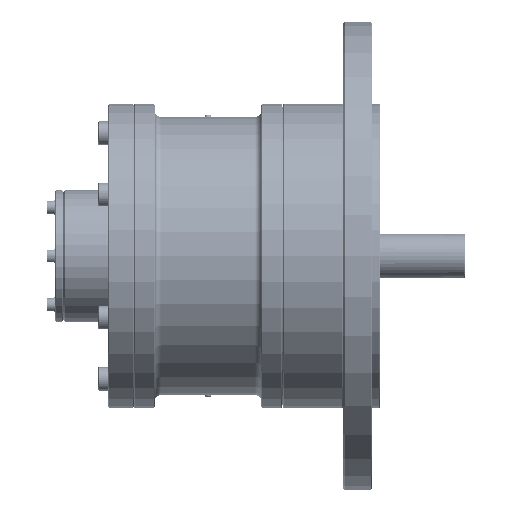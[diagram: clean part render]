
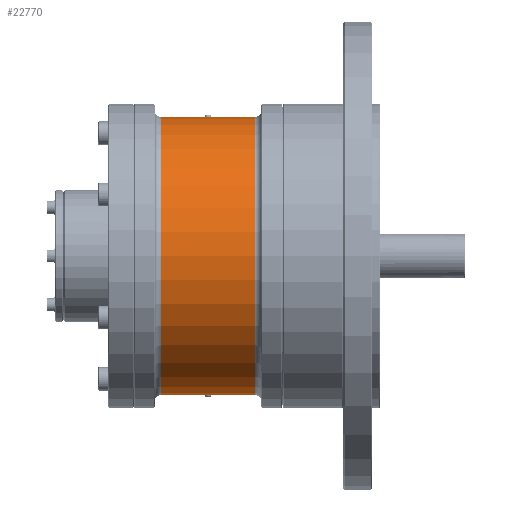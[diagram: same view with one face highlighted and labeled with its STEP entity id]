
A CAD part, front view. The second image highlights one B-rep face of the part: STEP entity #22770.
In plain terms, the highlighted cylindrical face has radius 59.5 mm (diameter 119 mm), a partial arc.
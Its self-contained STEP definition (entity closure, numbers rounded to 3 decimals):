
#1336 = AXIS2_PLACEMENT_3D ( 'NONE', #71107, #197490, #29830 ) ;
#10980 = LINE ( 'NONE', #163457, #52702 ) ;
#14158 = CARTESIAN_POINT ( 'NONE',  ( 17.5, 0., 59.5 ) ) ;
#18567 = CIRCLE ( 'NONE', #27989, 59.5 ) ;
#19676 = CARTESIAN_POINT ( 'NONE',  ( 17.5, 0., -59.5 ) ) ;
#21300 = FACE_OUTER_BOUND ( 'NONE', #60147, .T. ) ;
#22770 = ADVANCED_FACE ( 'NONE', ( #21300 ), #136905, .T. ) ;
#23606 = CIRCLE ( 'NONE', #1336, 59.5 ) ;
#27989 = AXIS2_PLACEMENT_3D ( 'NONE', #263414, #200480, #35467 ) ;
#29830 = DIRECTION ( 'NONE',  ( 0., 0., -1. ) ) ;
#32640 = ORIENTED_EDGE ( 'NONE', *, *, #113780, .F. ) ;
#35467 = DIRECTION ( 'NONE',  ( 0., 0., -1. ) ) ;
#45214 = VECTOR ( 'NONE', #181813, 1000. ) ;
#45800 = CARTESIAN_POINT ( 'NONE',  ( -20.25, 0., -59.5 ) ) ;
#46756 = VECTOR ( 'NONE', #48011, 1000. ) ;
#48011 = DIRECTION ( 'NONE',  ( 1., 0., 0. ) ) ;
#49451 = EDGE_CURVE ( 'NONE', #223347, #235997, #254153, .T. ) ;
#52702 = VECTOR ( 'NONE', #102545, 1000. ) ;
#53302 = EDGE_CURVE ( 'NONE', #235676, #194499, #23606, .T. ) ;
#55773 = CARTESIAN_POINT ( 'NONE',  ( -15., 0., 59.5 ) ) ;
#60147 = EDGE_LOOP ( 'NONE', ( #161233, #80608, #83010, #158616, #129545, #91675, #32640, #190693 ) ) ;
#66744 = EDGE_CURVE ( 'NONE', #248923, #184121, #106755, .T. ) ;
#68833 = CARTESIAN_POINT ( 'NONE',  ( -17.5, 0., 59.5 ) ) ;
#70958 = EDGE_CURVE ( 'NONE', #194499, #239706, #236118, .T. ) ;
#71107 = CARTESIAN_POINT ( 'NONE',  ( -20.25, 0., 0. ) ) ;
#80608 = ORIENTED_EDGE ( 'NONE', *, *, #53302, .T. ) ;
#83010 = ORIENTED_EDGE ( 'NONE', *, *, #70958, .T. ) ;
#85201 = VECTOR ( 'NONE', #202066, 1000. ) ;
#87681 = EDGE_CURVE ( 'NONE', #235997, #249183, #18567, .T. ) ;
#91622 = AXIS2_PLACEMENT_3D ( 'NONE', #131130, #111471, #150744 ) ;
#91675 = ORIENTED_EDGE ( 'NONE', *, *, #87681, .T. ) ;
#95706 = CARTESIAN_POINT ( 'NONE',  ( 20.25, 0., 59.5 ) ) ;
#102545 = DIRECTION ( 'NONE',  ( 1., 0., 0. ) ) ;
#106755 = LINE ( 'NONE', #55773, #135463 ) ;
#111471 = DIRECTION ( 'NONE',  ( 1., 0., 0. ) ) ;
#113780 = EDGE_CURVE ( 'NONE', #184121, #249183, #122261, .T. ) ;
#115640 = CARTESIAN_POINT ( 'NONE',  ( -22.75, 0., -59.5 ) ) ;
#122261 = LINE ( 'NONE', #135886, #231487 ) ;
#129545 = ORIENTED_EDGE ( 'NONE', *, *, #49451, .T. ) ;
#131130 = CARTESIAN_POINT ( 'NONE',  ( -22.75, 0., 0. ) ) ;
#135463 = VECTOR ( 'NONE', #201062, 1000. ) ;
#135886 = CARTESIAN_POINT ( 'NONE',  ( -22.75, 0., 59.5 ) ) ;
#136905 = CYLINDRICAL_SURFACE ( 'NONE', #91622, 59.5 ) ;
#140216 = CARTESIAN_POINT ( 'NONE',  ( -22.75, 0., -59.5 ) ) ;
#142823 = CARTESIAN_POINT ( 'NONE',  ( -20.25, 0., 59.5 ) ) ;
#145337 = EDGE_CURVE ( 'NONE', #239706, #223347, #168677, .T. ) ;
#147015 = CARTESIAN_POINT ( 'NONE',  ( 20.25, 0., -59.5 ) ) ;
#150744 = DIRECTION ( 'NONE',  ( 0., 0., -1. ) ) ;
#158616 = ORIENTED_EDGE ( 'NONE', *, *, #145337, .T. ) ;
#161233 = ORIENTED_EDGE ( 'NONE', *, *, #218066, .F. ) ;
#163457 = CARTESIAN_POINT ( 'NONE',  ( -22.75, 0., 59.5 ) ) ;
#168677 = LINE ( 'NONE', #193245, #46756 ) ;
#181813 = DIRECTION ( 'NONE',  ( 1., 0., 0. ) ) ;
#184121 = VERTEX_POINT ( 'NONE', #14158 ) ;
#190693 = ORIENTED_EDGE ( 'NONE', *, *, #66744, .F. ) ;
#193245 = CARTESIAN_POINT ( 'NONE',  ( -15., 0., -59.5 ) ) ;
#194499 = VERTEX_POINT ( 'NONE', #45800 ) ;
#197490 = DIRECTION ( 'NONE',  ( 1., 0., 0. ) ) ;
#197771 = CARTESIAN_POINT ( 'NONE',  ( -17.5, 0., -59.5 ) ) ;
#200480 = DIRECTION ( 'NONE',  ( -1., 0., 0. ) ) ;
#201062 = DIRECTION ( 'NONE',  ( 1., 0., 0. ) ) ;
#202066 = DIRECTION ( 'NONE',  ( 1., 0., 0. ) ) ;
#218066 = EDGE_CURVE ( 'NONE', #235676, #248923, #10980, .T. ) ;
#223347 = VERTEX_POINT ( 'NONE', #19676 ) ;
#231487 = VECTOR ( 'NONE', #237392, 1000. ) ;
#235676 = VERTEX_POINT ( 'NONE', #142823 ) ;
#235997 = VERTEX_POINT ( 'NONE', #147015 ) ;
#236118 = LINE ( 'NONE', #140216, #85201 ) ;
#237392 = DIRECTION ( 'NONE',  ( 1., 0., 0. ) ) ;
#239706 = VERTEX_POINT ( 'NONE', #197771 ) ;
#248923 = VERTEX_POINT ( 'NONE', #68833 ) ;
#249183 = VERTEX_POINT ( 'NONE', #95706 ) ;
#254153 = LINE ( 'NONE', #115640, #45214 ) ;
#263414 = CARTESIAN_POINT ( 'NONE',  ( 20.25, 0., 0. ) ) ;
